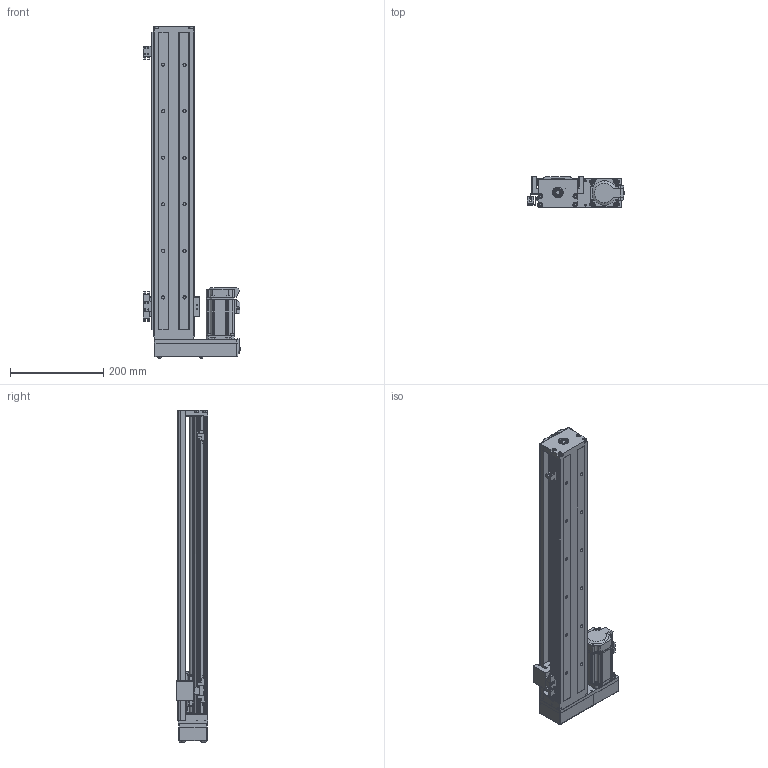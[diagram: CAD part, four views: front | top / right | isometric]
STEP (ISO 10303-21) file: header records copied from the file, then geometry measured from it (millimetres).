
FILE_DESCRIPTION (( 'STEP AP214' ), '1' );
FILE_NAME ('SFKK86-640S1-HR0C.STEP', '2022-05-05T13:49:24', ( '微软用户' ), ( '微软中国' ), 'SwSTEP 2.0', 'SolidWorks 2018', '' );
FILE_SCHEMA (( 'AUTOMOTIVE_DESIGN' ));
Length unit declared in the file: millimetre
Products named in the file (13): SFKK86-CU_640; 带盖挡光片：KK-86-S2-D1; SFKK86-LR 憤癹寢耋_640; SFKK86-FS; 蚐郲; 极限轨道与开关固定座组合_640; 开关固定座：KK-674S2-F; SFKK86-S1; SFKK86-H0_KKR86-ZT-P-640; hexagon socket countersunk head screws gb_GB_FASTENER_SCREWS_HSCHS M4X10-N; SX674嫖萇羲壽; SFKK86-640S1-HR0C; SFKK86-H0-侂狟400W耜蚾
Assembly tree (18 placements, depth 3):
  SFKK86-640S1-HR0C
    SFKK86-H0_KKR86-ZT-P-640
    SFKK86-S1
    极限轨道与开关固定座组合_640
      SFKK86-LR 憤癹寢耋_640
      开关固定座：KK-674S2-F  x2
    SX674嫖萇羲壽  x3
    蚐郲
    SFKK86-FS
    带盖挡光片：KK-86-S2-D1
    SFKK86-CU_640
    hexagon socket countersunk head screws gb_GB_FASTENER_SCREWS_HSCHS M4X10-N  x4
    SFKK86-H0-侂狟400W耜蚾
Bounding box: 208.5 x 68 x 713.2 mm (x, y, z)
Volume: 1577051.1 mm3; surface area: 657841.3 mm2
Topology: 31 solids, 80 shells, 3554 faces, 9531 edges, 6116 vertices
Faces by surface type: plane 1565, cylinder 1466, cone 301, bspline 102, torus 87, sphere 33
Entity records: 143831 total; most frequent: CARTESIAN_POINT 30652, DIRECTION 17852, ORIENTED_EDGE 17302, EDGE_CURVE 8934, AXIS2_PLACEMENT_3D 6377, VERTEX_POINT 5823, VECTOR 5098, LINE 5098
